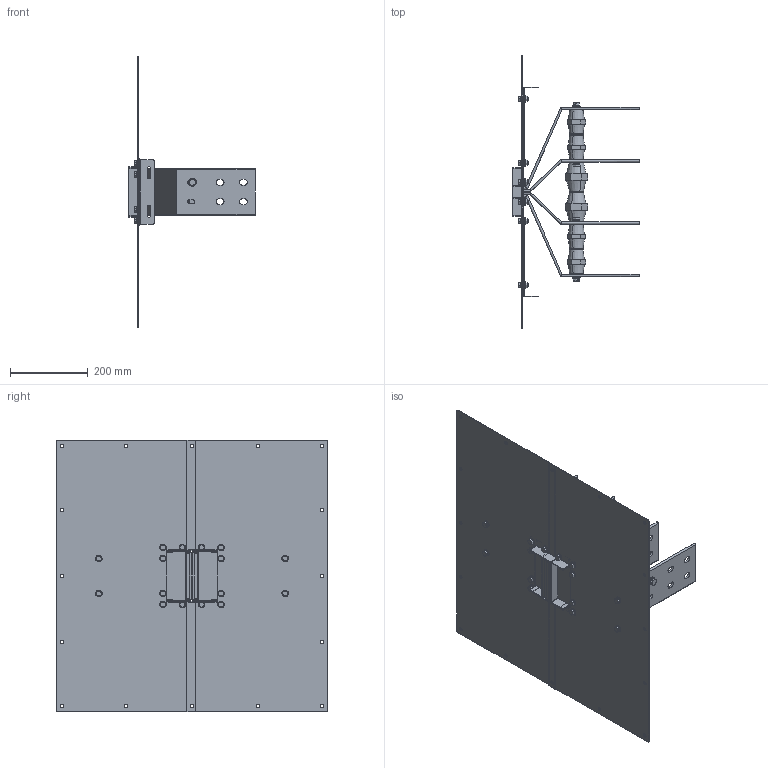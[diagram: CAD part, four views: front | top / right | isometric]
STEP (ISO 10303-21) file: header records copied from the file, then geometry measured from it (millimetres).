
FILE_DESCRIPTION(('CATIA V5 STEP','CAx-IF Rec.Pracs.--- Model Styling and Organization---1.5--- 2016-08-15','CAx-IF Rec.Pracs.---Supplemental Geometry---1.0---2011-11-01','CAx-IF Rec.Pracs.--- Composite Materials ---1.1---2010-07-15'),'2;1');
FILE_NAME('K:\COSCN 2011\32372311_RiduzioneSezioniBarre\03_Studio\__Modelli semplificati\XCP_UB semplificati per studi\XCP-HP_UB_4C_Pe_CRT_Assieme\Al\XCP-HP_UB_4C_Pe_S_Assieme - 1250A Al_CRT\XCP-HP_UB_4C_Pe_S_Assieme - 1250A Al_CRT.stp','2025-05-12T09:29:37+00:00',('Utente Bticino'),('Bticino S.p.A.'),'CATIA Version 5-6 Release 2020 SP5','CATIA V5 STEP AP214 v2','none');
FILE_SCHEMA(('AUTOMOTIVE_DESIGN { 1 0 10303 214 1 1 1 1 }'));
Length unit declared in the file: millimetre
Products named in the file (20): XCP-HP_UB_4C_Pe_S_Assieme - 1250A Al_CRT; XCP-HP_UB_4C_Pe_S_PaccoBarre_1250A Al_CRT; XCP-HP_UB_4C_Pe_S_Lamiere_1250A Al_CRT; Ass_M10x25.1; 00740025 M10x25 UNI5739; Rondella spac M10 UNI 1751; 00750005; 130006; 130184; 130006_1; 130184_1; 130006_2; 130006_3; 00750033 - RONDELLA PIANA 4.8 D.12 UNI 6592 ZB; 00750033 - RONDELLA PIANA 4.8 D.12 UNI 6592 ZB_1; 00750033 - RONDELLA PIANA 4.8 D.12 UNI 6592 ZB_2; Viteria UB H130; Ass Vite+dado M8; Steel hex flanged SCREW M12x16; Steel hex flanged NUT M8
Assembly tree (39 placements, depth 4):
  XCP-HP_UB_4C_Pe_S_Assieme - 1250A Al_CRT
    XCP-HP_UB_4C_Pe_S_PaccoBarre_1250A Al_CRT
    XCP-HP_UB_4C_Pe_S_Lamiere_1250A Al_CRT
    Ass_M10x25.1  x6
      00740025 M10x25 UNI5739
      Rondella spac M10 UNI 1751
      00750005
    130006
    130184
    130006_1
    130184_1
    130006_2
    130006_3
    00750033 - RONDELLA PIANA 4.8 D.12 UNI 6592 ZB
    00750033 - RONDELLA PIANA 4.8 D.12 UNI 6592 ZB_1
    00750033 - RONDELLA PIANA 4.8 D.12 UNI 6592 ZB_2
    Viteria UB H130
      Ass Vite+dado M8  x16
        Steel hex flanged SCREW M12x16
        Steel hex flanged NUT M8
Bounding box: 325 x 700 x 700 mm (x, y, z)
Volume: 2946199.2 mm3; surface area: 1804801.9 mm2
Topology: 73 solids, 73 shells, 1660 faces, 3976 edges, 2500 vertices
Faces by surface type: plane 728, cylinder 492, cone 200, bspline 176, torus 64
Entity records: 23809 total; most frequent: CARTESIAN_POINT 5240, ORIENTED_EDGE 3944, DIRECTION 3114, EDGE_CURVE 1972, AXIS2_PLACEMENT_3D 1368, VERTEX_POINT 1260, VECTOR 1128, LINE 1128
